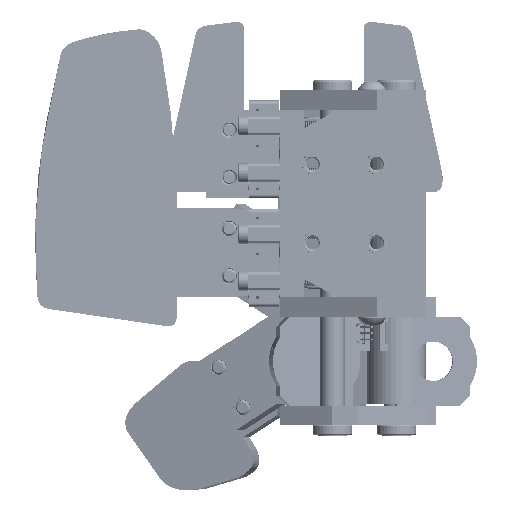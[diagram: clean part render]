
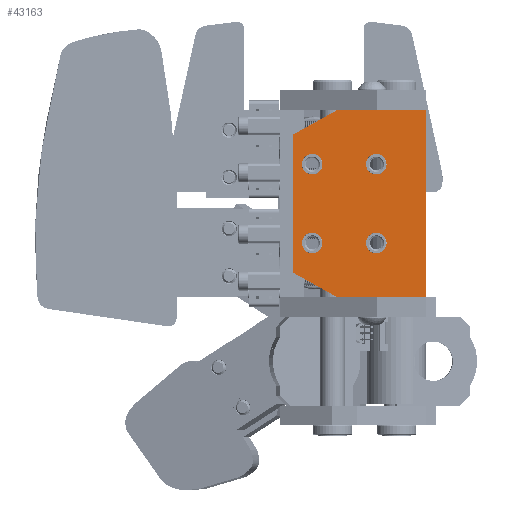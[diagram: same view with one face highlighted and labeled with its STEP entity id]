
A CAD part, front view. The second image highlights one B-rep face of the part: STEP entity #43163.
In plain terms, the highlighted planar face has unit normal (0, -1, 0) as drawn and (1, 0, 0) by its records, which use the part's own axes.
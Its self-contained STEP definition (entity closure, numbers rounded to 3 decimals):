
#1051=FACE_BOUND('',#7664,.T.);
#1052=FACE_BOUND('',#7665,.T.);
#1053=FACE_BOUND('',#7666,.T.);
#1054=FACE_BOUND('',#7667,.T.);
#1534=PLANE('',#45888);
#5237=FACE_OUTER_BOUND('',#7663,.T.);
#7663=EDGE_LOOP('',(#35038,#35039,#35040,#35041,#35042,#35043,#35044,#35045,
#35046,#35047,#35048));
#7664=EDGE_LOOP('',(#35049));
#7665=EDGE_LOOP('',(#35050));
#7666=EDGE_LOOP('',(#35051));
#7667=EDGE_LOOP('',(#35052));
#9313=CIRCLE('',#45889,2.093);
#9314=CIRCLE('',#45890,2.093);
#9315=CIRCLE('',#45891,2.092);
#9316=CIRCLE('',#45892,2.093);
#11316=LINE('',#107646,#15320);
#11328=LINE('',#107679,#15332);
#11329=LINE('',#107681,#15333);
#11349=LINE('',#107737,#15353);
#11350=LINE('',#107739,#15354);
#11351=LINE('',#107741,#15355);
#11352=LINE('',#107743,#15356);
#11353=LINE('',#107745,#15357);
#11354=LINE('',#107747,#15358);
#11355=LINE('',#107748,#15359);
#11356=LINE('',#107749,#15360);
#15320=VECTOR('',#50900,10.);
#15332=VECTOR('',#50928,10.);
#15333=VECTOR('',#50931,10.);
#15353=VECTOR('',#50981,10.);
#15354=VECTOR('',#50982,10.);
#15355=VECTOR('',#50983,10.);
#15356=VECTOR('',#50984,10.);
#15357=VECTOR('',#50985,10.);
#15358=VECTOR('',#50986,10.);
#15359=VECTOR('',#50987,10.);
#15360=VECTOR('',#50988,10.);
#20084=VERTEX_POINT('',#107642);
#20086=VERTEX_POINT('',#107645);
#20097=VERTEX_POINT('',#107673);
#20099=VERTEX_POINT('',#107677);
#20119=VERTEX_POINT('',#107735);
#20120=VERTEX_POINT('',#107736);
#20121=VERTEX_POINT('',#107738);
#20122=VERTEX_POINT('',#107740);
#20123=VERTEX_POINT('',#107742);
#20124=VERTEX_POINT('',#107744);
#20125=VERTEX_POINT('',#107746);
#20126=VERTEX_POINT('',#107750);
#20127=VERTEX_POINT('',#107752);
#20128=VERTEX_POINT('',#107754);
#20129=VERTEX_POINT('',#107756);
#25385=EDGE_CURVE('',#20086,#20084,#11316,.T.);
#25401=EDGE_CURVE('',#20099,#20097,#11328,.T.);
#25402=EDGE_CURVE('',#20086,#20099,#11329,.T.);
#25430=EDGE_CURVE('',#20119,#20120,#11349,.T.);
#25431=EDGE_CURVE('',#20120,#20121,#11350,.T.);
#25432=EDGE_CURVE('',#20121,#20122,#11351,.T.);
#25433=EDGE_CURVE('',#20122,#20123,#11352,.T.);
#25434=EDGE_CURVE('',#20123,#20124,#11353,.T.);
#25435=EDGE_CURVE('',#20124,#20125,#11354,.T.);
#25436=EDGE_CURVE('',#20125,#20097,#11355,.T.);
#25437=EDGE_CURVE('',#20084,#20119,#11356,.T.);
#25438=EDGE_CURVE('',#20126,#20126,#9313,.T.);
#25439=EDGE_CURVE('',#20127,#20127,#9314,.T.);
#25440=EDGE_CURVE('',#20128,#20128,#9315,.T.);
#25441=EDGE_CURVE('',#20129,#20129,#9316,.T.);
#35038=ORIENTED_EDGE('',*,*,#25430,.T.);
#35039=ORIENTED_EDGE('',*,*,#25431,.T.);
#35040=ORIENTED_EDGE('',*,*,#25432,.T.);
#35041=ORIENTED_EDGE('',*,*,#25433,.T.);
#35042=ORIENTED_EDGE('',*,*,#25434,.T.);
#35043=ORIENTED_EDGE('',*,*,#25435,.T.);
#35044=ORIENTED_EDGE('',*,*,#25436,.T.);
#35045=ORIENTED_EDGE('',*,*,#25401,.F.);
#35046=ORIENTED_EDGE('',*,*,#25402,.F.);
#35047=ORIENTED_EDGE('',*,*,#25385,.T.);
#35048=ORIENTED_EDGE('',*,*,#25437,.T.);
#35049=ORIENTED_EDGE('',*,*,#25438,.T.);
#35050=ORIENTED_EDGE('',*,*,#25439,.T.);
#35051=ORIENTED_EDGE('',*,*,#25440,.T.);
#35052=ORIENTED_EDGE('',*,*,#25441,.T.);
#43163=ADVANCED_FACE('',(#5237,#1051,#1052,#1053,#1054),#1534,.T.);
#45888=AXIS2_PLACEMENT_3D('',#107734,#50979,#50980);
#45889=AXIS2_PLACEMENT_3D('',#107751,#50989,#50990);
#45890=AXIS2_PLACEMENT_3D('',#107753,#50991,#50992);
#45891=AXIS2_PLACEMENT_3D('',#107755,#50993,#50994);
#45892=AXIS2_PLACEMENT_3D('',#107757,#50995,#50996);
#50900=DIRECTION('',(0.,1.,0.));
#50928=DIRECTION('',(0.,1.,0.));
#50931=DIRECTION('',(0.,0.,1.));
#50979=DIRECTION('center_axis',(1.,0.,0.));
#50980=DIRECTION('ref_axis',(0.,1.,0.));
#50981=DIRECTION('',(0.,1.,0.));
#50982=DIRECTION('',(0.,1.,0.));
#50983=DIRECTION('',(0.,0.,1.));
#50984=DIRECTION('',(0.,0.,1.));
#50985=DIRECTION('',(0.,-0.486,0.874));
#50986=DIRECTION('',(0.,-1.,0.));
#50987=DIRECTION('',(0.,-0.486,-0.874));
#50988=DIRECTION('',(0.,1.,0.));
#50989=DIRECTION('center_axis',(-1.,0.,0.));
#50990=DIRECTION('ref_axis',(0.,1.,0.));
#50991=DIRECTION('center_axis',(-1.,0.,0.));
#50992=DIRECTION('ref_axis',(0.,1.,0.));
#50993=DIRECTION('center_axis',(-1.,0.,0.));
#50994=DIRECTION('ref_axis',(0.,1.,0.));
#50995=DIRECTION('center_axis',(-1.,0.,0.));
#50996=DIRECTION('ref_axis',(0.,1.,0.));
#107642=CARTESIAN_POINT('',(-0.04,-16.75,-3.5));
#107645=CARTESIAN_POINT('',(-0.04,-16.754,-3.5));
#107646=CARTESIAN_POINT('',(-0.04,-16.754,-3.5));
#107673=CARTESIAN_POINT('',(-0.04,-16.75,14.503));
#107677=CARTESIAN_POINT('',(-0.04,-16.754,14.503));
#107679=CARTESIAN_POINT('',(-0.04,-16.754,14.503));
#107681=CARTESIAN_POINT('',(-0.04,-16.754,-3.5));
#107734=CARTESIAN_POINT('Origin',(-0.04,2.25,
10.));
#107735=CARTESIAN_POINT('',(-0.04,-11.754,-3.5));
#107736=CARTESIAN_POINT('',(-0.04,16.25,-3.5));
#107737=CARTESIAN_POINT('',(-0.04,-16.75,-3.5));
#107738=CARTESIAN_POINT('',(-0.04,21.25,-3.5));
#107739=CARTESIAN_POINT('',(-0.04,-16.75,-3.5));
#107740=CARTESIAN_POINT('',(-0.04,21.25,1.5));
#107741=CARTESIAN_POINT('',(-0.04,21.25,-3.5));
#107742=CARTESIAN_POINT('',(-0.04,21.25,14.503));
#107743=CARTESIAN_POINT('',(-0.04,21.25,-3.5));
#107744=CARTESIAN_POINT('',(-0.04,16.25,23.5));
#107745=CARTESIAN_POINT('',(-0.04,21.25,14.503));
#107746=CARTESIAN_POINT('',(-0.04,-11.75,23.5));
#107747=CARTESIAN_POINT('',(-0.04,16.25,23.5));
#107748=CARTESIAN_POINT('',(-0.04,-11.75,23.5));
#107749=CARTESIAN_POINT('',(-0.04,-16.75,-3.5));
#107750=CARTESIAN_POINT('',(-0.04,8.159,19.602));
#107751=CARTESIAN_POINT('Origin',(-0.04,10.252,
19.602));
#107752=CARTESIAN_POINT('',(-0.04,-7.845,19.602));
#107753=CARTESIAN_POINT('Origin',(-0.04,-5.752,
19.602));
#107754=CARTESIAN_POINT('',(-0.04,8.16,6.598));
#107755=CARTESIAN_POINT('Origin',(-0.04,10.252,
6.598));
#107756=CARTESIAN_POINT('',(-0.04,-7.845,6.598));
#107757=CARTESIAN_POINT('Origin',(-0.04,-5.752,
6.598));
